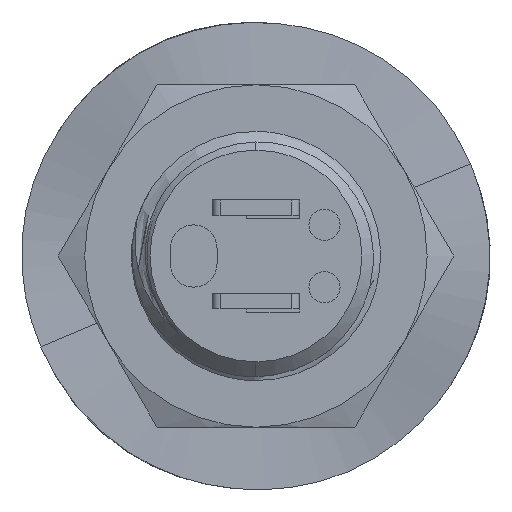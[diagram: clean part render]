
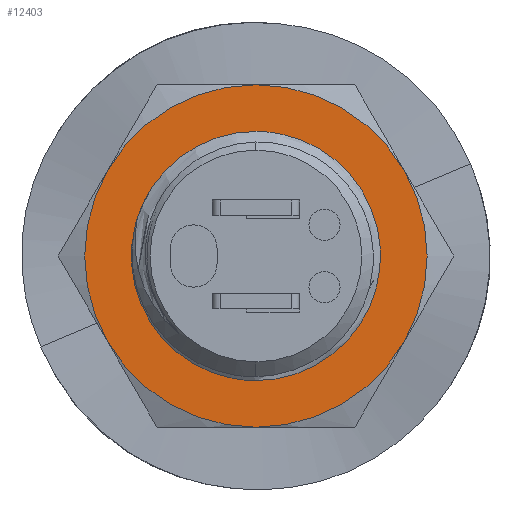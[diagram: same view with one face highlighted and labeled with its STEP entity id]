
A CAD part, left-side view. The second image highlights one B-rep face of the part: STEP entity #12403.
In plain terms, the highlighted planar face has unit normal (-1, 0, 0) as drawn and (0, 0, -1) by its records, which use the part's own axes.
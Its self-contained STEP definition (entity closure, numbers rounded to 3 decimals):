
#103 = ORIENTED_EDGE ( 'NONE', *, *, #4398, .T. ) ;
#338 = ORIENTED_EDGE ( 'NONE', *, *, #4347, .T. ) ;
#1378 = VERTEX_POINT ( 'NONE', #3000 ) ;
#1516 = EDGE_CURVE ( 'NONE', #1378, #3842, #6863, .T. ) ;
#1938 = CARTESIAN_POINT ( 'NONE',  ( -5.498, 0., -1. ) ) ;
#2010 = ORIENTED_EDGE ( 'NONE', *, *, #1516, .T. ) ;
#2500 = EDGE_CURVE ( 'NONE', #9444, #13470, #10663, .T. ) ;
#3000 = CARTESIAN_POINT ( 'NONE',  ( 5.498, 0., -1. ) ) ;
#3009 = DIRECTION ( 'NONE',  ( 1., 0., 0. ) ) ;
#3842 = VERTEX_POINT ( 'NONE', #1938 ) ;
#4147 = DIRECTION ( 'NONE',  ( 0., 0., -1. ) ) ;
#4347 = EDGE_CURVE ( 'NONE', #13470, #9444, #4696, .T. ) ;
#4398 = EDGE_CURVE ( 'NONE', #3842, #1378, #9628, .T. ) ;
#4457 = ORIENTED_EDGE ( 'NONE', *, *, #2500, .T. ) ;
#4696 = CIRCLE ( 'NONE', #6405, 3.7 ) ;
#4807 = FACE_OUTER_BOUND ( 'NONE', #7535, .T. ) ;
#5037 = CARTESIAN_POINT ( 'NONE',  ( -3.7, 0., -1. ) ) ;
#5833 = CARTESIAN_POINT ( 'NONE',  ( 0., 0., -1. ) ) ;
#6007 = CARTESIAN_POINT ( 'NONE',  ( 0., 0., -1. ) ) ;
#6175 = CARTESIAN_POINT ( 'NONE',  ( 0., 0., -1. ) ) ;
#6405 = AXIS2_PLACEMENT_3D ( 'NONE', #6175, #13521, #7214 ) ;
#6863 = CIRCLE ( 'NONE', #8209, 5.498 ) ;
#6883 = DIRECTION ( 'NONE',  ( 1., 0., 0. ) ) ;
#7053 = DIRECTION ( 'NONE',  ( 1., 0., 0. ) ) ;
#7214 = DIRECTION ( 'NONE',  ( 1., 0., 0. ) ) ;
#7417 = AXIS2_PLACEMENT_3D ( 'NONE', #11356, #9296, #3009 ) ;
#7535 = EDGE_LOOP ( 'NONE', ( #2010, #103 ) ) ;
#7910 = FACE_BOUND ( 'NONE', #12916, .T. ) ;
#8209 = AXIS2_PLACEMENT_3D ( 'NONE', #5833, #13189, #6883 ) ;
#8222 = PLANE ( 'NONE',  #7417 ) ;
#9296 = DIRECTION ( 'NONE',  ( 0., 0., 1. ) ) ;
#9444 = VERTEX_POINT ( 'NONE', #5037 ) ;
#9628 = CIRCLE ( 'NONE', #9950, 5.498 ) ;
#9950 = AXIS2_PLACEMENT_3D ( 'NONE', #10452, #4147, #11496 ) ;
#10452 = CARTESIAN_POINT ( 'NONE',  ( 0., 0., -1. ) ) ;
#10587 = CARTESIAN_POINT ( 'NONE',  ( 3.7, 0., -1. ) ) ;
#10663 = CIRCLE ( 'NONE', #11782, 3.7 ) ;
#11356 = CARTESIAN_POINT ( 'NONE',  ( 0., 0., -1. ) ) ;
#11496 = DIRECTION ( 'NONE',  ( 1., 0., 0. ) ) ;
#11782 = AXIS2_PLACEMENT_3D ( 'NONE', #6007, #13353, #7053 ) ;
#12403 = ADVANCED_FACE ( 'NONE', ( #7910, #4807 ), #8222, .F. ) ;
#12916 = EDGE_LOOP ( 'NONE', ( #4457, #338 ) ) ;
#13189 = DIRECTION ( 'NONE',  ( 0., 0., -1. ) ) ;
#13353 = DIRECTION ( 'NONE',  ( 0., 0., 1. ) ) ;
#13470 = VERTEX_POINT ( 'NONE', #10587 ) ;
#13521 = DIRECTION ( 'NONE',  ( 0., 0., 1. ) ) ;
